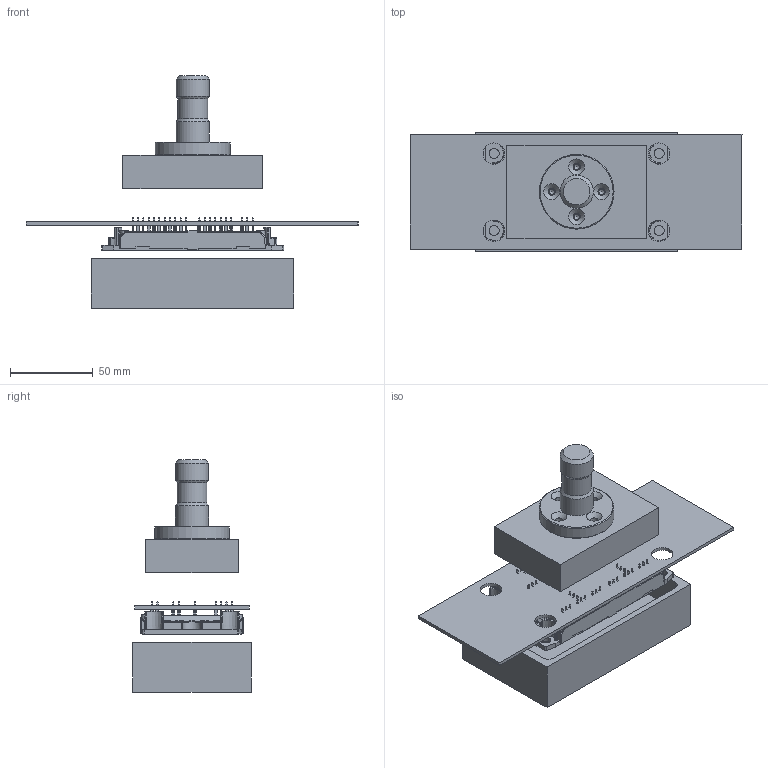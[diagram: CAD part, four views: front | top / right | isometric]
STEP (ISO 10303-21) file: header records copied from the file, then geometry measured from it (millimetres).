
FILE_DESCRIPTION(/* description */ ('Unknown','CAx-IF Rec.Pracs.---Representation and Presentation of Product Manufacturing Information (PMI)---4.0---2014-10-13','CAx-IF Rec.Pracs.---3D Tessellated Geometry---0.4---2014-09-14','2;1'),/* implementation_level */ '2;1');
FILE_NAME(/* name */ 'flowE3BP-Pressout',/* time_stamp */ '2026-01-13T16:11:25+01:00',/* author */ ('Unknown'),/* organization */ ('Unknown'),/* preprocessor_version */ 'ST-DEVELOPER v20',/* originating_system */ 'Solid Edge',/* authorisation */ 'Unknown');
FILE_SCHEMA (('AP242_MANAGED_MODEL_BASED_3D_ENGINEERING_MIM_LF { 1 0 10303 442 1 1 4 }'));
Products named in the file (8): flowE3BP-Pressout; PH6x_thermal_oa_0; Board; Open CASCADE STEP translator 6.8 1.1.1; PH6x_kipreselo_also; PH6x_kipreselo_felso_mod; module; 400-3407-00-03-01_Pres_Adapter
Assembly tree (7 placements, depth 4):
  flowE3BP-Pressout
    PH6x_thermal_oa_0
      Board
        Open CASCADE STEP translator 6.8 1.1.1
    PH6x_kipreselo_also
    PH6x_kipreselo_felso_mod
    module
    400-3407-00-03-01_Pres_Adapter
Bounding box: 200 x 71.66 x 140.05 mm (x, y, z)
Volume: 318923.7 mm3; surface area: 127729.5 mm2
Topology: 5 solids, 37 shells, 8188 faces, 23179 edges, 15270 vertices
Faces by surface type: plane 6632, cylinder 902, bspline 312, cone 246, torus 68, sphere 28
Full cylindrical faces by diameter (mm): 0.5 x32, 2.6 x4, 3 x4, 3.242 x8, 4.3 x4, 6 x6, 6.1 x2, 13 x4, 18 x1, 20 x2, 45 x1
Entity records: 325166 total; most frequent: CARTESIAN_POINT 56868, ORIENTED_EDGE 46074, DIRECTION 40451, EDGE_CURVE 23037, LINE 18413, VECTOR 18413, VERTEX_POINT 15243, AXIS2_PLACEMENT_3D 11019
